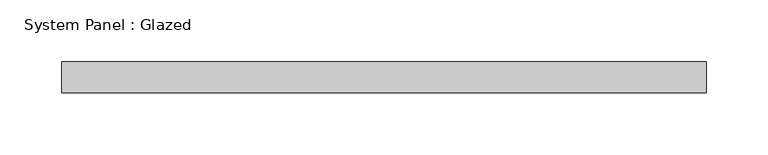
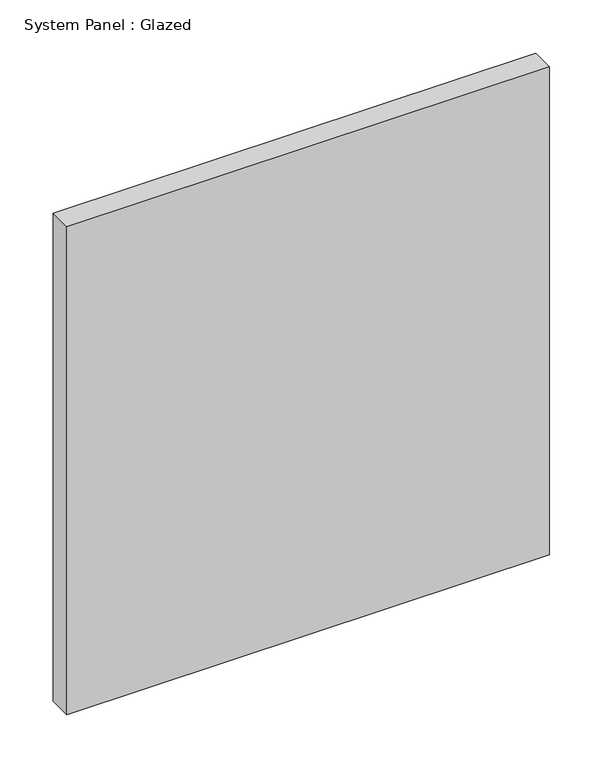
"""IFC4 building model written with IfcOpenShell, lengths in millimetres: plate geometry, System Panel : Glazed."""

from ifc_helpers import new_model, si_unit, origin, origin_with_axes, place, context, project, spatial, polyline, outline, extrude, source, transform, mapped, element, save


def system_panel_glazed_bf1454fd(model_context):
    return source(origin(), model_context, "Body", "SweptSolid", [
        extrude(outline(polyline([(261.62, -12.7), (-261.62, -12.7), (-261.62, 12.7), (261.62, 12.7), (261.62, -12.7)])), origin_with_axes(), (0.0, 0.0, 1.0), 558.8),
    ])


if __name__ == "__main__":
    model = new_model("IFC4")
    model_context = context("Model", 3, world=origin())
    ifc_project = project(units=[si_unit("LENGTHUNIT", "METRE", prefix="MILLI")], contexts=[model_context])
    site = spatial("IfcSite", under=ifc_project)
    building = spatial("IfcBuilding", under=site)
    placement = place(None, origin())
    system_panel_glazed_shape = system_panel_glazed_bf1454fd(model_context)
    element("IfcPlate", 1, ObjectType="System Panel : Glazed", at=placement, inside=building, context=model_context, shape_type="MappedRepresentation", body=[
        mapped(system_panel_glazed_shape, transform((0.0, 0.0, 0.0), x_axis=(1.0, 0.0, 0.0), y_axis=(0.0, 1.0, 0.0), z_axis=(0.0, 0.0, 1.0))),
    ])
    save(model, "model.ifc")
